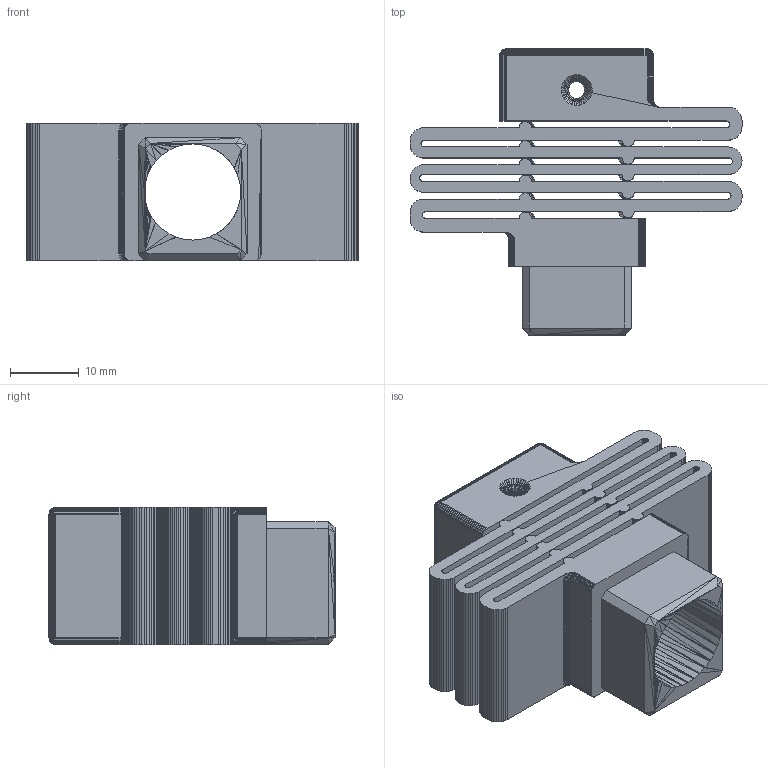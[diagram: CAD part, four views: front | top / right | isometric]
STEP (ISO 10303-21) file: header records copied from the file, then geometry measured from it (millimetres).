
FILE_DESCRIPTION(('Open CASCADE Model'),'2;1');
FILE_NAME('Open CASCADE Shape Model','2026-08-09T08:59:08',('Author'),( 'Open CASCADE'),'Open CASCADE STEP processor 7.9','Open CASCADE 7.9' ,'Unknown');
FILE_SCHEMA(('AUTOMOTIVE_DESIGN { 1 0 10303 214 1 1 1 1 }'));
Products named in the file (1): Open CASCADE STEP translator 7.9 5
Bounding box: 48.4 x 41.7 x 20 mm (x, y, z)
Volume: 14066.7 mm3; surface area: 14977.9 mm2
Topology: 1 solids, 1 shells, 4249 faces, 7565 edges, 3300 vertices
Faces by surface type: plane 4249
Entity records: 186242 total; most frequent: CARTESIAN_POINT 35875, DIRECTION 25553, LINE 17053, VECTOR 17053, ORIENTED_EDGE 15126, PCURVE 15126, DEFINITIONAL_REPRESENTATION 15126, EDGE_CURVE 7563
